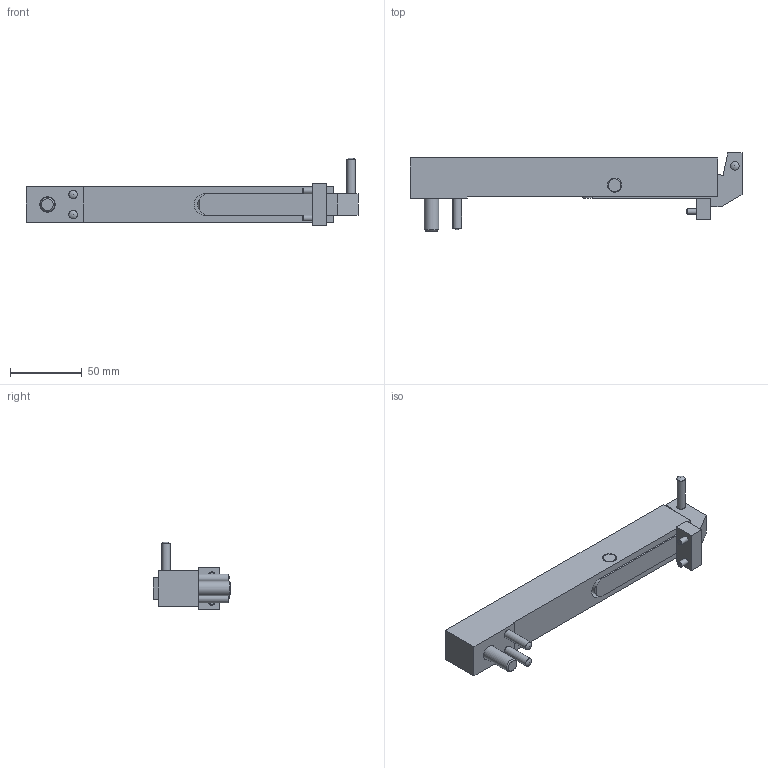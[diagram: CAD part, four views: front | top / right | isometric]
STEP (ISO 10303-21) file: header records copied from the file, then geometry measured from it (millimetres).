
FILE_DESCRIPTION(/* description */ ('STEP AP214'),/* implementation_level */ '2;1');
FILE_NAME(/* name */ 'KL13170',/* time_stamp */ '2024-12-19T07:59:51+01:00',/* author */ ('License CC BY-ND 4.0'),/* organization */ ('CADENAS'),/* preprocessor_version */ 'ST-DEVELOPER v19.3',/* originating_system */ 'PARTsolutions',/* authorisation */ ' ');
FILE_SCHEMA (('AUTOMOTIVE_DESIGN {1 0 10303 214 3 1 1}'));
Length unit declared in the file: millimetre
Products named in the file (10): KL13170; KL1317011; KL1317012; KL1317013; KL1317014; KL1317015; KL1317016; KL1317017; KL1317018; KL1317019
Assembly tree (11 placements, depth 2):
  KL13170
    KL1317011
    KL1317012
    KL1317013  x2
    KL1317014
    KL1317015
    KL1317016
    KL1317017
    KL1317018
    KL1317019  x2
Bounding box: 232 x 54.5 x 47.5 mm (x, y, z)
Volume: 156631.5 mm3; surface area: 48424 mm2
Topology: 11 solids, 11 shells, 118 faces, 269 edges, 177 vertices
Faces by surface type: plane 75, cylinder 26, cone 11, sphere 6
Full cylindrical faces by diameter (mm): 4 x2, 4.134 x1, 4.3 x2, 5 x1, 6 x6, 7 x2, 8 x2, 10 x5, 11 x1, 16 x1, 18 x1
Entity records: 2893 total; most frequent: DIRECTION 467, CARTESIAN_POINT 458, ORIENTED_EDGE 372, EDGE_CURVE 186, AXIS2_PLACEMENT_3D 169, EDGE_LOOP 159, FACE_BOUND 159, VERTEX_POINT 141
